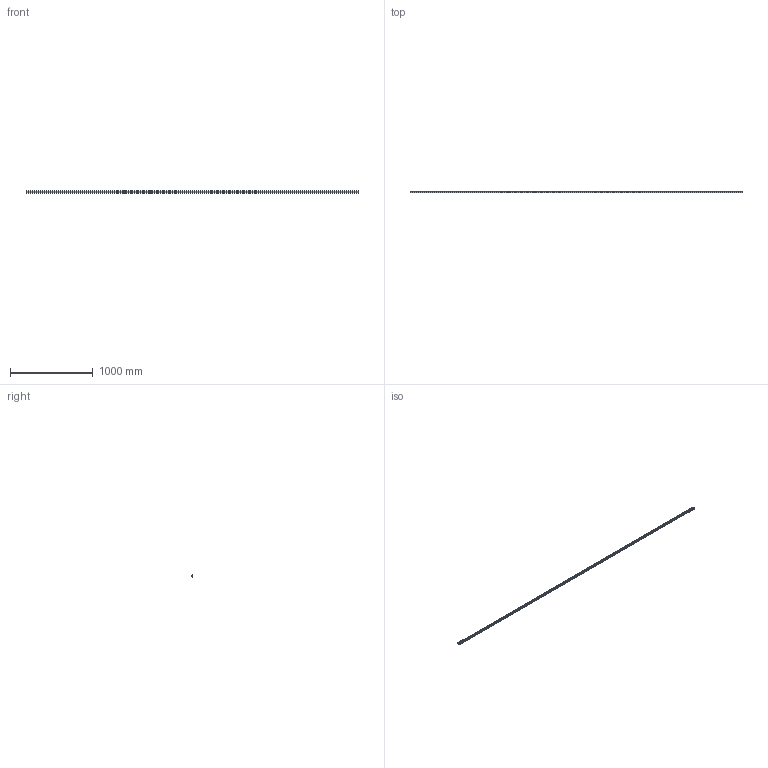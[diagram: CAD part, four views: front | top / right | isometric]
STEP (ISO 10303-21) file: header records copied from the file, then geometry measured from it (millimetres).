
FILE_DESCRIPTION (( 'STEP AP203' ), '1' );
FILE_NAME ('L1018.25R-4020.step', '2023-08-06T10:51:23', ( '' ), ( '' ), 'SwSTEP 2.0', 'SolidWorks 2019', '' );
FILE_SCHEMA (( 'CONFIG_CONTROL_DESIGN' ));
Length unit declared in the file: millimetre
Products named in the file (1): L1018.25R-4020
Bounding box: 4020 x 21.8 x 25 mm (x, y, z)
Volume: 1671870.2 mm3; surface area: 400031.2 mm2
Topology: 1 solids, 1 shells, 632 faces, 1421 edges, 791 vertices
Faces by surface type: cylinder 271, cone 268, plane 93
Entity records: 16676 total; most frequent: DIRECTION 3229, CARTESIAN_POINT 2711, ORIENTED_EDGE 2574, AXIS2_PLACEMENT_3D 1309, EDGE_CURVE 1287, VERTEX_POINT 791, EDGE_LOOP 766, CIRCLE 676
